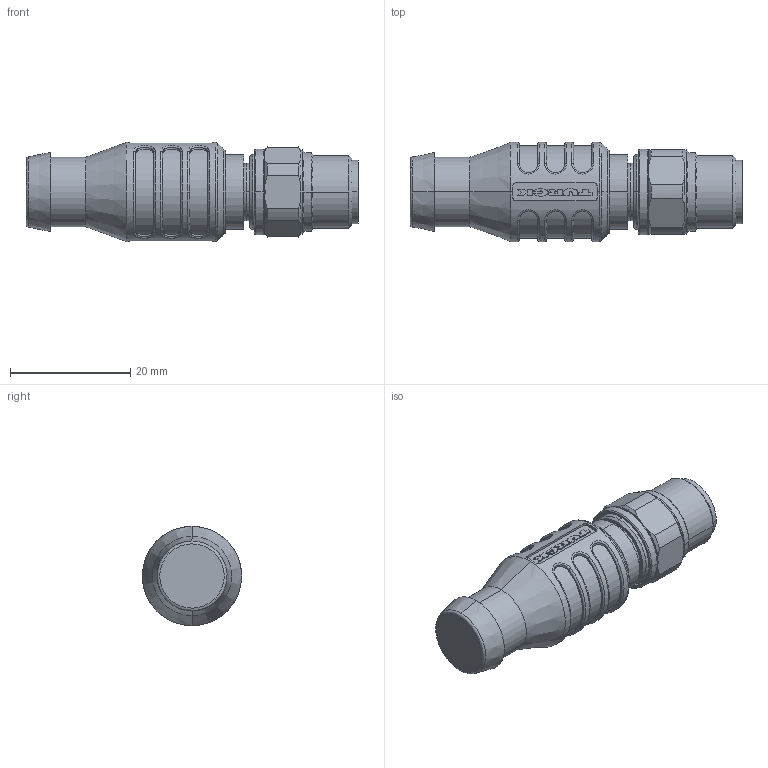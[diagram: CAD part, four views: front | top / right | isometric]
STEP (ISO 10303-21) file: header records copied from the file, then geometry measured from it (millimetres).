
FILE_DESCRIPTION (( 'STEP AP203' ), '1' );
FILE_NAME ('RSEV57.STEP', '2024-01-12T06:12:09', ( '' ), ( '' ), 'SwSTEP 2.0', 'SolidWorks 2019', '' );
FILE_SCHEMA (( 'CONFIG_CONTROL_DESIGN' ));
Length unit declared in the file: inch
Products named in the file (1): RSEV57
Bounding box: 55.2 x 16.5 x 16.5 mm (x, y, z)
Surface area: 3549.3 mm2 (no closed solid volume)
Topology: 0 solids, 10 shells, 316 faces, 907 edges, 624 vertices
Faces by surface type: plane 139, bspline 77, cylinder 57, cone 39, torus 4
Entity records: 13118 total; most frequent: CARTESIAN_POINT 5133, ORIENTED_EDGE 1673, DIRECTION 1523, EDGE_CURVE 907, VERTEX_POINT 624, AXIS2_PLACEMENT_3D 530, LINE 463, VECTOR 463
